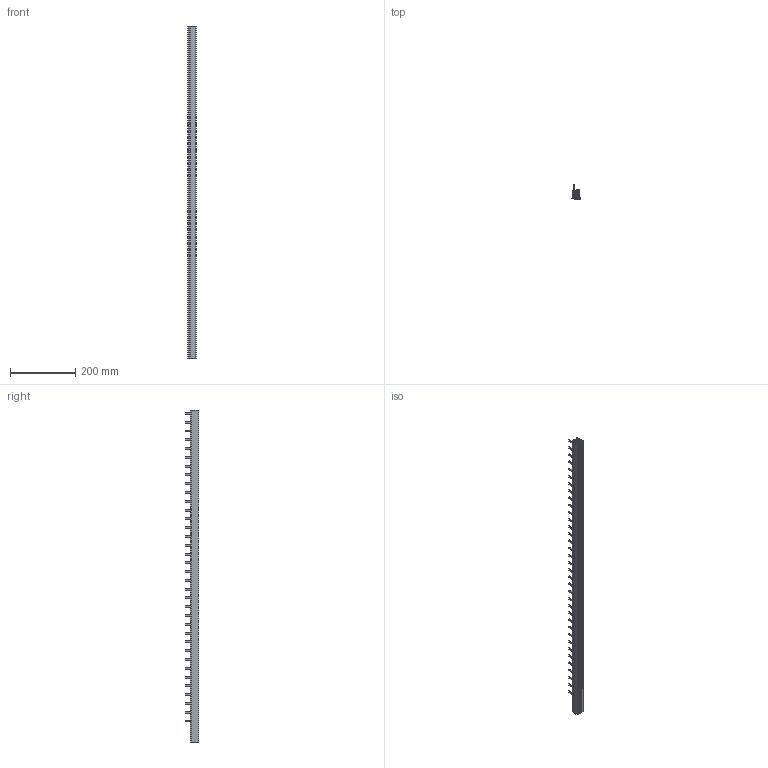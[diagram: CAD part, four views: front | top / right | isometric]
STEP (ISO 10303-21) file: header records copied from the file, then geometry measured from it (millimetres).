
FILE_DESCRIPTION (( 'STEP AP214' ), '1' );
FILE_NAME ('S4L-27-1000-25.step', '2011-08-12T10:36:29', ( 'Radek Veselý' ), ( 'Siemens and Partners' ), 'SwSTEP 2.0', 'SolidWorks 2006303', '' );
FILE_SCHEMA (( 'AUTOMOTIVE_DESIGN' ));
Length unit declared in the file: millimetre
Products named in the file (1): S4L-27-1000-25
Bounding box: 24.64 x 42 x 1020 mm (x, y, z)
Volume: 326047 mm3; surface area: 497742.7 mm2
Topology: 6 solids, 6 shells, 667 faces, 1821 edges, 1166 vertices
Faces by surface type: cylinder 350, plane 317
Entity records: 28268 total; most frequent: CARTESIAN_POINT 4087, ORIENTED_EDGE 3642, DIRECTION 3425, EDGE_CURVE 1821, VECTOR 1265, LINE 1265, VERTEX_POINT 1166, AXIS2_PLACEMENT_3D 1080
